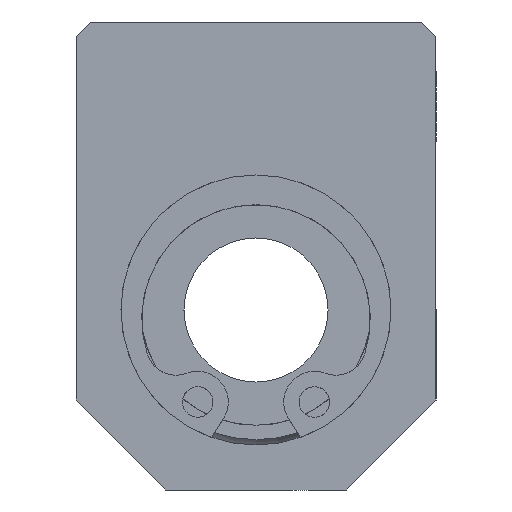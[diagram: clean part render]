
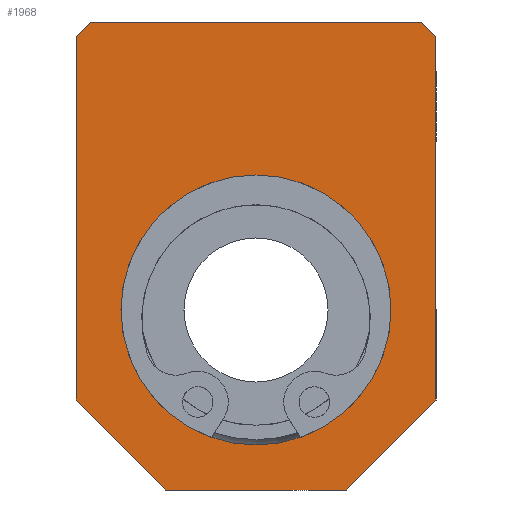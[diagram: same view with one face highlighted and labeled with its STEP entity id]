
A CAD part, left-side view. The second image highlights one B-rep face of the part: STEP entity #1968.
In plain terms, the highlighted planar face has unit normal (-1, 0, 0).
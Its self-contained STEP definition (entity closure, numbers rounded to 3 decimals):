
#1870=CARTESIAN_POINT('',(0.0,-9.2,16.0));
#1871=VERTEX_POINT('',#1870);
#1878=CARTESIAN_POINT('',(0.0,-10.,15.2));
#1879=VERTEX_POINT('',#1878);
#1880=CARTESIAN_POINT('',(0.0,-9.2,16.0));
#1881=DIRECTION('',(0.0,-0.707,-0.707));
#1882=VECTOR('',#1881,1.131);
#1883=LINE('',#1880,#1882);
#1884=EDGE_CURVE('',#1871,#1879,#1883,.T.);
#1895=CARTESIAN_POINT('',(0.0,0.,3.));
#1896=DIRECTION('',(1.0,0.0,0.0));
#1897=DIRECTION('',(0.0,0.0,-1.0));
#1898=AXIS2_PLACEMENT_3D('',#1895,#1896,#1897);
#1899=PLANE('',#1898);
#1900=ORIENTED_EDGE('',*,*,#1884,.F.);
#1901=CARTESIAN_POINT('',(0.0,9.2,16.0));
#1902=VERTEX_POINT('',#1901);
#1903=CARTESIAN_POINT('',(0.0,-9.2,16.0));
#1904=DIRECTION('',(0.0,1.0,0.0));
#1905=VECTOR('',#1904,18.4);
#1906=LINE('',#1903,#1905);
#1907=EDGE_CURVE('',#1871,#1902,#1906,.T.);
#1908=ORIENTED_EDGE('',*,*,#1907,.T.);
#1909=CARTESIAN_POINT('',(0.0,10.,15.2));
#1910=VERTEX_POINT('',#1909);
#1911=CARTESIAN_POINT('',(0.0,10.,15.2));
#1912=DIRECTION('',(0.0,-0.707,0.707));
#1913=VECTOR('',#1912,1.131);
#1914=LINE('',#1911,#1913);
#1915=EDGE_CURVE('',#1910,#1902,#1914,.T.);
#1916=ORIENTED_EDGE('',*,*,#1915,.F.);
#1917=CARTESIAN_POINT('',(0.0,10.0,-5.));
#1918=VERTEX_POINT('',#1917);
#1919=CARTESIAN_POINT('',(0.0,10.,15.2));
#1920=DIRECTION('',(0.0,0.0,-1.0));
#1921=VECTOR('',#1920,20.2);
#1922=LINE('',#1919,#1921);
#1923=EDGE_CURVE('',#1910,#1918,#1922,.T.);
#1924=ORIENTED_EDGE('',*,*,#1923,.T.);
#1925=CARTESIAN_POINT('',(0.0,5.,-10.));
#1926=VERTEX_POINT('',#1925);
#1927=CARTESIAN_POINT('',(0.0,5.,-10.));
#1928=DIRECTION('',(0.0,0.707,0.707));
#1929=VECTOR('',#1928,7.071);
#1930=LINE('',#1927,#1929);
#1931=EDGE_CURVE('',#1926,#1918,#1930,.T.);
#1932=ORIENTED_EDGE('',*,*,#1931,.F.);
#1933=CARTESIAN_POINT('',(0.0,-5.,-10.));
#1934=VERTEX_POINT('',#1933);
#1935=CARTESIAN_POINT('',(0.0,5.,-10.));
#1936=DIRECTION('',(0.0,-1.0,0.0));
#1937=VECTOR('',#1936,10.);
#1938=LINE('',#1935,#1937);
#1939=EDGE_CURVE('',#1926,#1934,#1938,.T.);
#1940=ORIENTED_EDGE('',*,*,#1939,.T.);
#1941=CARTESIAN_POINT('',(0.0,-10.0,-5.));
#1942=VERTEX_POINT('',#1941);
#1943=CARTESIAN_POINT('',(0.0,-10.0,-5.));
#1944=DIRECTION('',(0.0,0.707,-0.707));
#1945=VECTOR('',#1944,7.071);
#1946=LINE('',#1943,#1945);
#1947=EDGE_CURVE('',#1942,#1934,#1946,.T.);
#1948=ORIENTED_EDGE('',*,*,#1947,.F.);
#1949=CARTESIAN_POINT('',(0.0,-10.0,-5.));
#1950=DIRECTION('',(0.0,0.0,1.0));
#1951=VECTOR('',#1950,20.2);
#1952=LINE('',#1949,#1951);
#1953=EDGE_CURVE('',#1942,#1879,#1952,.T.);
#1954=ORIENTED_EDGE('',*,*,#1953,.T.);
#1955=EDGE_LOOP('',(#1900,#1908,#1916,#1924,#1932,#1940,#1948,#1954));
#1956=FACE_OUTER_BOUND('',#1955,.T.);
#1957=CARTESIAN_POINT('',(0.0,7.5,0.));
#1958=VERTEX_POINT('',#1957);
#1959=CARTESIAN_POINT('',(0.0,0.0,0.0));
#1960=DIRECTION('',(1.0,0.0,0.0));
#1961=DIRECTION('',(0.0,-1.0,0.0));
#1962=AXIS2_PLACEMENT_3D('',#1959,#1960,#1961);
#1963=CIRCLE('',#1962,7.5);
#1964=EDGE_CURVE('',#1958,#1958,#1963,.T.);
#1965=ORIENTED_EDGE('',*,*,#1964,.T.);
#1966=EDGE_LOOP('',(#1965));
#1967=FACE_BOUND('',#1966,.T.);
#1968=ADVANCED_FACE('',(#1956,#1967),#1899,.F.);
